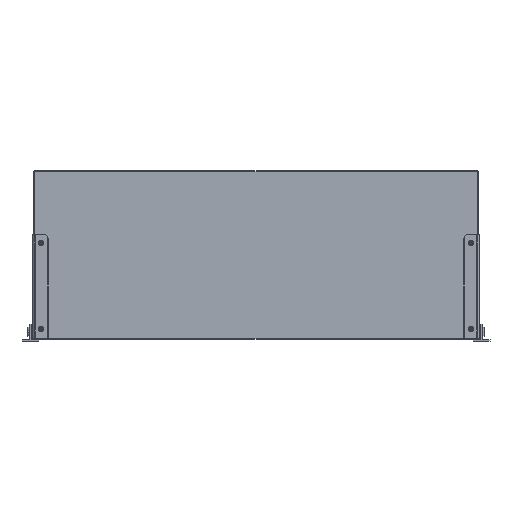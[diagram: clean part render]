
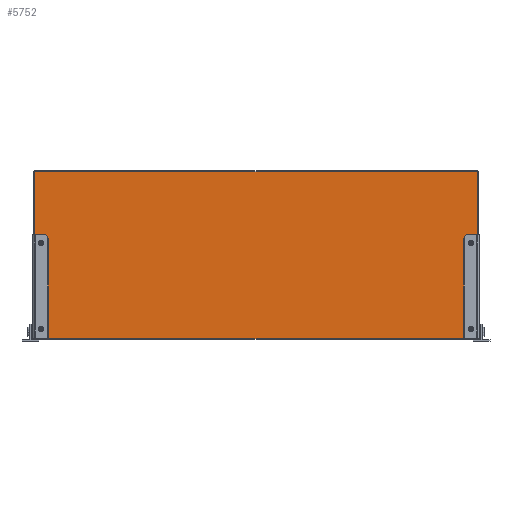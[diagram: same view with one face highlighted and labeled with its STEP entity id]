
A CAD part, front view. The second image highlights one B-rep face of the part: STEP entity #5752.
In plain terms, the highlighted planar face has unit normal (0, -1, 0).
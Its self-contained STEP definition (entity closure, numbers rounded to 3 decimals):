
#211 = AXIS2_PLACEMENT_3D ( 'NONE', #6461, #3921, #30139 ) ;
#302 = DIRECTION ( 'NONE',  ( 0., 0., -1. ) ) ;
#838 = EDGE_CURVE ( 'NONE', #20654, #6531, #23499, .T. ) ;
#1428 = DIRECTION ( 'NONE',  ( 0., 0., -1. ) ) ;
#1455 = VERTEX_POINT ( 'NONE', #7975 ) ;
#1861 = ORIENTED_EDGE ( 'NONE', *, *, #11739, .F. ) ;
#1999 = VERTEX_POINT ( 'NONE', #13777 ) ;
#2041 = CIRCLE ( 'NONE', #12700, 2.5 ) ;
#2225 = EDGE_CURVE ( 'NONE', #15427, #11737, #12344, .T. ) ;
#2369 = DIRECTION ( 'NONE',  ( 1., 0., 0. ) ) ;
#2642 = EDGE_CURVE ( 'NONE', #2935, #15671, #31054, .T. ) ;
#2669 = ORIENTED_EDGE ( 'NONE', *, *, #25116, .T. ) ;
#2689 = CARTESIAN_POINT ( 'NONE',  ( 0., 0., 0. ) ) ;
#2699 = CARTESIAN_POINT ( 'NONE',  ( -382.5, 0., -131.8 ) ) ;
#2935 = VERTEX_POINT ( 'NONE', #21613 ) ;
#3202 = EDGE_CURVE ( 'NONE', #9070, #1999, #2041, .T. ) ;
#3577 = ORIENTED_EDGE ( 'NONE', *, *, #18507, .T. ) ;
#3921 = DIRECTION ( 'NONE',  ( 0., -1., 0. ) ) ;
#4054 = ORIENTED_EDGE ( 'NONE', *, *, #8843, .T. ) ;
#4214 = AXIS2_PLACEMENT_3D ( 'NONE', #12305, #29272, #12465 ) ;
#4317 = EDGE_LOOP ( 'NONE', ( #31328, #12003 ) ) ;
#4505 = AXIS2_PLACEMENT_3D ( 'NONE', #12296, #7865, #27205 ) ;
#4546 = AXIS2_PLACEMENT_3D ( 'NONE', #2689, #16503, #4571 ) ;
#4571 = DIRECTION ( 'NONE',  ( 0., 0., -1. ) ) ;
#4667 = CIRCLE ( 'NONE', #23426, 2.5 ) ;
#4876 = ORIENTED_EDGE ( 'NONE', *, *, #23434, .T. ) ;
#4920 = CARTESIAN_POINT ( 'NONE',  ( -382.5, 0., 21.2 ) ) ;
#5041 = FACE_OUTER_BOUND ( 'NONE', #20912, .T. ) ;
#5049 = DIRECTION ( 'NONE',  ( 0., 0., -1. ) ) ;
#5248 = CARTESIAN_POINT ( 'NONE',  ( -382.5, 0., -129.3 ) ) ;
#5390 = ORIENTED_EDGE ( 'NONE', *, *, #9721, .T. ) ;
#5752 = ADVANCED_FACE ( 'NONE', ( #5041, #9337, #6813, #16966, #24075 ), #16640, .T. ) ;
#5941 = EDGE_CURVE ( 'NONE', #6531, #20654, #26355, .T. ) ;
#6301 = DIRECTION ( 'NONE',  ( -1., 0., 0. ) ) ;
#6461 = CARTESIAN_POINT ( 'NONE',  ( 382.5, 0., 21.2 ) ) ;
#6531 = VERTEX_POINT ( 'NONE', #6567 ) ;
#6567 = CARTESIAN_POINT ( 'NONE',  ( 382.5, 0., 18.7 ) ) ;
#6597 = AXIS2_PLACEMENT_3D ( 'NONE', #29653, #15523, #24878 ) ;
#6813 = FACE_BOUND ( 'NONE', #22436, .T. ) ;
#7058 = CIRCLE ( 'NONE', #4505, 2.5 ) ;
#7153 = CARTESIAN_POINT ( 'NONE',  ( 394., 0., -148.5 ) ) ;
#7865 = DIRECTION ( 'NONE',  ( 0., -1., 0. ) ) ;
#7895 = EDGE_CURVE ( 'NONE', #30796, #15427, #28858, .T. ) ;
#7975 = CARTESIAN_POINT ( 'NONE',  ( -382.5, 0., 18.7 ) ) ;
#8442 = LINE ( 'NONE', #28562, #10160 ) ;
#8843 = EDGE_CURVE ( 'NONE', #29468, #30796, #8442, .T. ) ;
#9070 = VERTEX_POINT ( 'NONE', #5248 ) ;
#9337 = FACE_BOUND ( 'NONE', #24532, .T. ) ;
#9721 = EDGE_CURVE ( 'NONE', #11737, #29468, #28028, .T. ) ;
#10160 = VECTOR ( 'NONE', #1428, 1000. ) ;
#10531 = CARTESIAN_POINT ( 'NONE',  ( 393.5, 0., 148.5 ) ) ;
#10729 = ORIENTED_EDGE ( 'NONE', *, *, #3202, .T. ) ;
#11737 = VERTEX_POINT ( 'NONE', #10531 ) ;
#11739 = EDGE_CURVE ( 'NONE', #15671, #2935, #7058, .T. ) ;
#12003 = ORIENTED_EDGE ( 'NONE', *, *, #838, .F. ) ;
#12296 = CARTESIAN_POINT ( 'NONE',  ( 382.5, 0., -131.8 ) ) ;
#12305 = CARTESIAN_POINT ( 'NONE',  ( 382.5, 0., -131.8 ) ) ;
#12344 = LINE ( 'NONE', #27242, #13952 ) ;
#12366 = DIRECTION ( 'NONE',  ( 0., 1., 0. ) ) ;
#12465 = DIRECTION ( 'NONE',  ( 0., 0., -1. ) ) ;
#12700 = AXIS2_PLACEMENT_3D ( 'NONE', #12896, #17811, #13356 ) ;
#12896 = CARTESIAN_POINT ( 'NONE',  ( -382.5, 0., -131.8 ) ) ;
#13253 = ORIENTED_EDGE ( 'NONE', *, *, #2642, .F. ) ;
#13356 = DIRECTION ( 'NONE',  ( 0., 0., -1. ) ) ;
#13777 = CARTESIAN_POINT ( 'NONE',  ( -382.5, 0., -134.3 ) ) ;
#13952 = VECTOR ( 'NONE', #19625, 1000. ) ;
#14871 = ORIENTED_EDGE ( 'NONE', *, *, #7895, .T. ) ;
#15427 = VERTEX_POINT ( 'NONE', #20532 ) ;
#15523 = DIRECTION ( 'NONE',  ( 0., -1., 0. ) ) ;
#15642 = ORIENTED_EDGE ( 'NONE', *, *, #2225, .T. ) ;
#15671 = VERTEX_POINT ( 'NONE', #21454 ) ;
#15724 = AXIS2_PLACEMENT_3D ( 'NONE', #17114, #26775, #5049 ) ;
#16128 = CARTESIAN_POINT ( 'NONE',  ( -395., 0., 148.5 ) ) ;
#16161 = CARTESIAN_POINT ( 'NONE',  ( -382.5, 0., 23.7 ) ) ;
#16503 = DIRECTION ( 'NONE',  ( 0., -1., 0. ) ) ;
#16640 = PLANE ( 'NONE',  #4546 ) ;
#16966 = FACE_BOUND ( 'NONE', #4317, .T. ) ;
#17114 = CARTESIAN_POINT ( 'NONE',  ( -382.5, 0., 21.2 ) ) ;
#17588 = VERTEX_POINT ( 'NONE', #16161 ) ;
#17811 = DIRECTION ( 'NONE',  ( 0., 1., 0. ) ) ;
#18292 = VECTOR ( 'NONE', #2369, 1000. ) ;
#18507 = EDGE_CURVE ( 'NONE', #17588, #1455, #19475, .T. ) ;
#19475 = CIRCLE ( 'NONE', #25056, 2.5 ) ;
#19625 = DIRECTION ( 'NONE',  ( 0., 0., 1. ) ) ;
#20532 = CARTESIAN_POINT ( 'NONE',  ( 393.5, 0., -148.5 ) ) ;
#20654 = VERTEX_POINT ( 'NONE', #22797 ) ;
#20912 = EDGE_LOOP ( 'NONE', ( #4054, #14871, #15642, #5390 ) ) ;
#21290 = CARTESIAN_POINT ( 'NONE',  ( -393.5, 0., 148.5 ) ) ;
#21454 = CARTESIAN_POINT ( 'NONE',  ( 382.5, 0., -134.3 ) ) ;
#21613 = CARTESIAN_POINT ( 'NONE',  ( 382.5, 0., -129.3 ) ) ;
#22436 = EDGE_LOOP ( 'NONE', ( #2669, #10729 ) ) ;
#22797 = CARTESIAN_POINT ( 'NONE',  ( 382.5, 0., 23.7 ) ) ;
#22832 = CARTESIAN_POINT ( 'NONE',  ( -393.5, 0., -148.5 ) ) ;
#23426 = AXIS2_PLACEMENT_3D ( 'NONE', #2699, #12366, #302 ) ;
#23434 = EDGE_CURVE ( 'NONE', #1455, #17588, #27386, .T. ) ;
#23495 = DIRECTION ( 'NONE',  ( 0., 1., 0. ) ) ;
#23499 = CIRCLE ( 'NONE', #211, 2.5 ) ;
#24075 = FACE_BOUND ( 'NONE', #26570, .T. ) ;
#24532 = EDGE_LOOP ( 'NONE', ( #4876, #3577 ) ) ;
#24878 = DIRECTION ( 'NONE',  ( 0., 0., -1. ) ) ;
#25056 = AXIS2_PLACEMENT_3D ( 'NONE', #4920, #23495, #27286 ) ;
#25116 = EDGE_CURVE ( 'NONE', #1999, #9070, #4667, .T. ) ;
#26355 = CIRCLE ( 'NONE', #6597, 2.5 ) ;
#26570 = EDGE_LOOP ( 'NONE', ( #1861, #13253 ) ) ;
#26775 = DIRECTION ( 'NONE',  ( 0., 1., 0. ) ) ;
#27205 = DIRECTION ( 'NONE',  ( 0., 0., -1. ) ) ;
#27242 = CARTESIAN_POINT ( 'NONE',  ( 393.5, 0., 150. ) ) ;
#27286 = DIRECTION ( 'NONE',  ( 0., 0., -1. ) ) ;
#27386 = CIRCLE ( 'NONE', #15724, 2.5 ) ;
#28028 = LINE ( 'NONE', #16128, #30483 ) ;
#28562 = CARTESIAN_POINT ( 'NONE',  ( -393.5, 0., -149. ) ) ;
#28858 = LINE ( 'NONE', #7153, #18292 ) ;
#29272 = DIRECTION ( 'NONE',  ( 0., -1., 0. ) ) ;
#29468 = VERTEX_POINT ( 'NONE', #21290 ) ;
#29653 = CARTESIAN_POINT ( 'NONE',  ( 382.5, 0., 21.2 ) ) ;
#30139 = DIRECTION ( 'NONE',  ( 0., 0., -1. ) ) ;
#30483 = VECTOR ( 'NONE', #6301, 1000. ) ;
#30796 = VERTEX_POINT ( 'NONE', #22832 ) ;
#31054 = CIRCLE ( 'NONE', #4214, 2.5 ) ;
#31328 = ORIENTED_EDGE ( 'NONE', *, *, #5941, .F. ) ;
